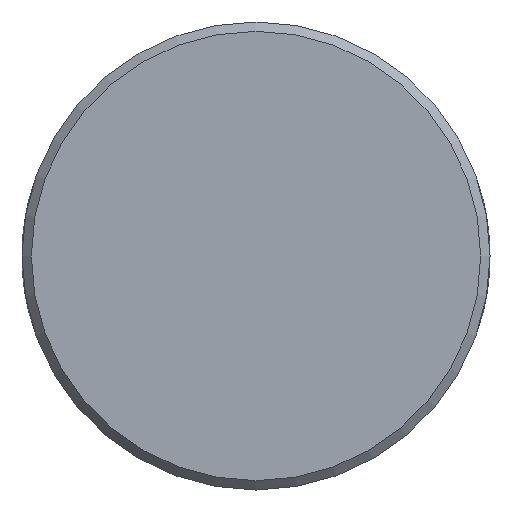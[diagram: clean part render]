
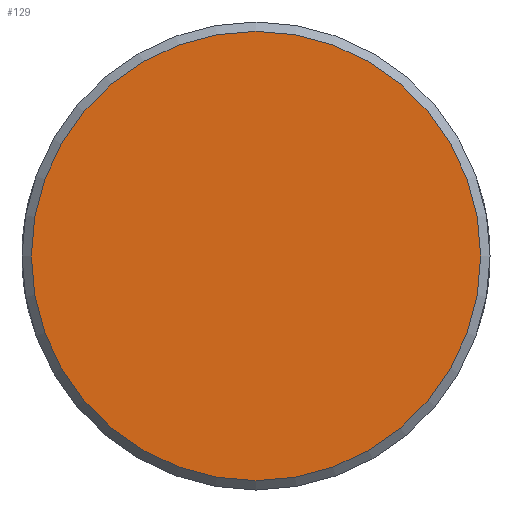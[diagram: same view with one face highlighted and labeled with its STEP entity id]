
A CAD part, front view. The second image highlights one B-rep face of the part: STEP entity #129.
In plain terms, the highlighted planar face has unit normal (0, -1, 0).
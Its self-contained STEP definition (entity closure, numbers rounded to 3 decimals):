
#9 = CARTESIAN_POINT ( 'NONE',  ( 0., -20., -4.8 ) ) ;
#12 = DIRECTION ( 'NONE',  ( 0., 0., -1. ) ) ;
#22 = EDGE_CURVE ( 'NONE', #213, #213, #108, .T. ) ;
#54 = DIRECTION ( 'NONE',  ( 0., -1., 0. ) ) ;
#67 = EDGE_LOOP ( 'NONE', ( #255 ) ) ;
#108 = CIRCLE ( 'NONE', #262, 4.8 ) ;
#116 = FACE_OUTER_BOUND ( 'NONE', #67, .T. ) ;
#129 = ADVANCED_FACE ( 'NONE', ( #116 ), #160, .T. ) ;
#140 = CARTESIAN_POINT ( 'NONE',  ( 5., -20., 0. ) ) ;
#160 = PLANE ( 'NONE',  #171 ) ;
#171 = AXIS2_PLACEMENT_3D ( 'NONE', #140, #54, #12 ) ;
#213 = VERTEX_POINT ( 'NONE', #9 ) ;
#231 = DIRECTION ( 'NONE',  ( 0., 0., -1. ) ) ;
#233 = CARTESIAN_POINT ( 'NONE',  ( 0., -20., 0. ) ) ;
#253 = DIRECTION ( 'NONE',  ( 0., -1., 0. ) ) ;
#255 = ORIENTED_EDGE ( 'NONE', *, *, #22, .T. ) ;
#262 = AXIS2_PLACEMENT_3D ( 'NONE', #233, #253, #231 ) ;
